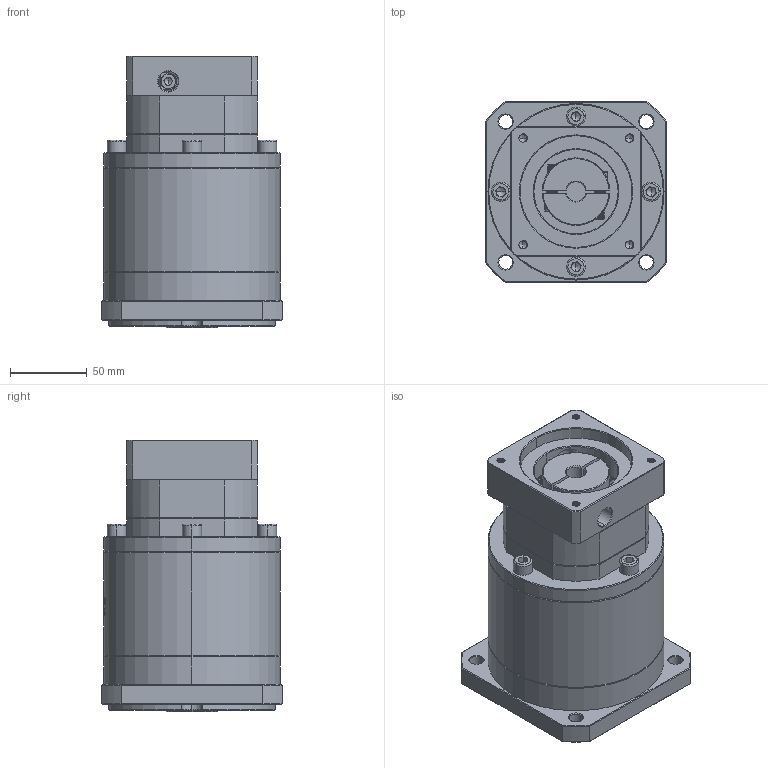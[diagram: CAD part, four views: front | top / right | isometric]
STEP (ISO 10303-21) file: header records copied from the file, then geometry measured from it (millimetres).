
FILE_DESCRIPTION (( 'STEP AP214' ), '1' );
FILE_NAME ('ZF120A-K25-L3-P2-12.7-73-69.6X69.6-M6.step', '2023-08-27T06:02:46', ( '' ), ( '' ), 'SwSTEP 2.0', 'SolidWorks 2016', '' );
FILE_SCHEMA (( 'AUTOMOTIVE_DESIGN' ));
Length unit declared in the file: millimetre
Products named in the file (1): ZF120A-K25-L3-P2-12.7-73-69.6X69.6-M6
Bounding box: 118 x 118 x 177.5 mm (x, y, z)
Volume: 1528218.3 mm3; surface area: 136129.9 mm2
Topology: 5 solids, 6 shells, 2153 faces, 5733 edges, 3679 vertices
Faces by surface type: plane 1053, bspline 410, cylinder 369, cone 306, torus 15
Entity records: 115610 total; most frequent: CARTESIAN_POINT 43545, ORIENTED_EDGE 11410, DIRECTION 8248, EDGE_CURVE 5705, VERTEX_POINT 3679, LINE 3046, VECTOR 3046, AXIS2_PLACEMENT_3D 2601
